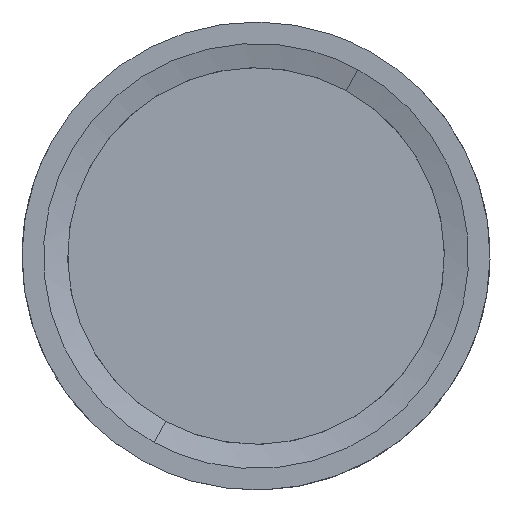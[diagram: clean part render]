
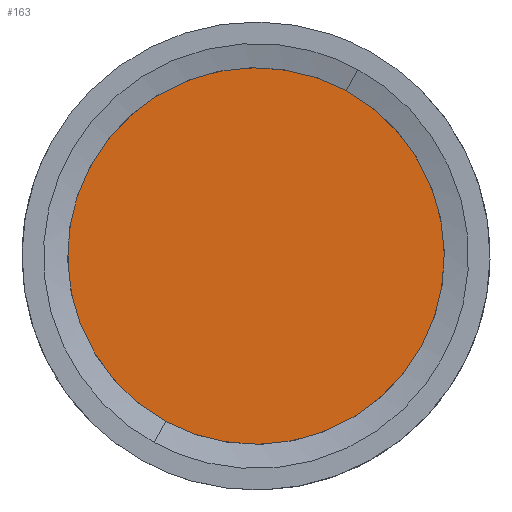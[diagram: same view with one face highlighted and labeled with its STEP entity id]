
A CAD part, left-side view. The second image highlights one B-rep face of the part: STEP entity #163.
In plain terms, the highlighted free-form (B-spline) face has degree [1, 1] with [2, 2] control points.
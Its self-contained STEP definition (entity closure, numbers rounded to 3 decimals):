
#163=ADVANCED_FACE('',(#323),#324,.T.);
#323=FACE_OUTER_BOUND('',#1015,.T.);
#324=B_SPLINE_SURFACE_WITH_KNOTS('',1,1,((#1016,#1017),(#1018,#1019)),.UNSPECIFIED.,.F.,.F.,.F.,(2,2),(2,2),(0.0,64.0),(0.0,64.0),.UNSPECIFIED.);
#1015=EDGE_LOOP('',(#1427,#1428,#1429));
#1016=CARTESIAN_POINT('',(-12.31,-32.0,-32.0));
#1017=CARTESIAN_POINT('',(-12.31,32.0,-32.0));
#1018=CARTESIAN_POINT('',(-12.31,-32.0,32.0));
#1019=CARTESIAN_POINT('',(-12.31,32.0,32.0));
#1427=ORIENTED_EDGE('',*,*,#1617,.T.);
#1428=ORIENTED_EDGE('',*,*,#1472,.T.);
#1429=ORIENTED_EDGE('',*,*,#1618,.T.);
#1472=EDGE_CURVE('',#1666,#1670,#1672,.T.);
#1617=EDGE_CURVE('',#1880,#1666,#1881,.T.);
#1618=EDGE_CURVE('',#1670,#1880,#1882,.T.);
#1666=VERTEX_POINT('',#2149);
#1670=VERTEX_POINT('',#2154);
#1672=(B_SPLINE_CURVE(2,(#2158,#2159,#2160,#2161,#2162),.UNSPECIFIED.,.F.,.F.)B_SPLINE_CURVE_WITH_KNOTS((3,2,3),(-1.571,0.,1.571),.UNSPECIFIED.)RATIONAL_B_SPLINE_CURVE((1.0,0.707,1.0,0.707,1.0))BOUNDED_CURVE()REPRESENTATION_ITEM('')GEOMETRIC_REPRESENTATION_ITEM()CURVE());
#1880=VERTEX_POINT('',#2872);
#1881=(B_SPLINE_CURVE(2,(#2874,#2875,#2876),.UNSPECIFIED.,.F.,.F.)B_SPLINE_CURVE_WITH_KNOTS((3,3),(-3.142,-1.571),.UNSPECIFIED.)RATIONAL_B_SPLINE_CURVE((1.0,0.707,1.0))BOUNDED_CURVE()REPRESENTATION_ITEM('')GEOMETRIC_REPRESENTATION_ITEM()CURVE());
#1882=(B_SPLINE_CURVE(2,(#2884,#2885,#2886),.UNSPECIFIED.,.F.,.F.)B_SPLINE_CURVE_WITH_KNOTS((3,3),(1.571,3.142),.UNSPECIFIED.)RATIONAL_B_SPLINE_CURVE((1.0,0.707,1.0))BOUNDED_CURVE()REPRESENTATION_ITEM('')GEOMETRIC_REPRESENTATION_ITEM()CURVE());
#2149=CARTESIAN_POINT('',(-12.31,-15.342,28.083));
#2154=CARTESIAN_POINT('',(-12.31,15.342,-28.083));
#2158=CARTESIAN_POINT('',(-12.31,-15.342,28.083));
#2159=CARTESIAN_POINT('',(-12.31,12.741,43.424));
#2160=CARTESIAN_POINT('',(-12.31,28.083,15.342));
#2161=CARTESIAN_POINT('',(-12.31,43.424,-12.741));
#2162=CARTESIAN_POINT('',(-12.31,15.342,-28.083));
#2872=CARTESIAN_POINT('',(-12.31,-28.083,-15.342));
#2874=CARTESIAN_POINT('',(-12.31,-28.083,-15.342));
#2875=CARTESIAN_POINT('',(-12.31,-43.424,12.741));
#2876=CARTESIAN_POINT('',(-12.31,-15.342,28.083));
#2884=CARTESIAN_POINT('',(-12.31,15.342,-28.083));
#2885=CARTESIAN_POINT('',(-12.31,-12.741,-43.424));
#2886=CARTESIAN_POINT('',(-12.31,-28.083,-15.342));
